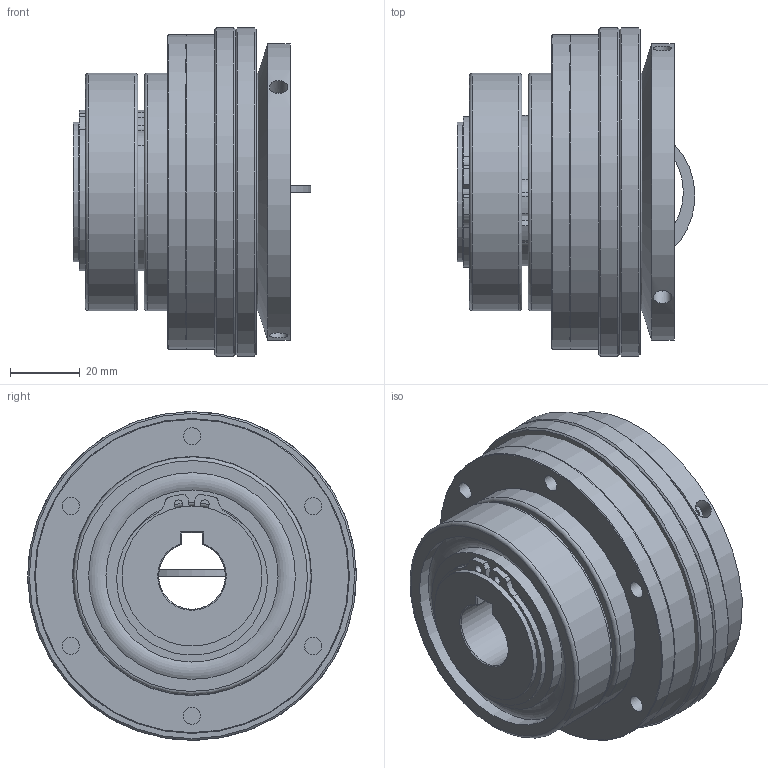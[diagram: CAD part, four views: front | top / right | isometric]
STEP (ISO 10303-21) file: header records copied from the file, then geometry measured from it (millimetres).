
FILE_DESCRIPTION( ( 'Unknown' ), '1' );
FILE_NAME( 'C:/Dokumente und Einstellungen/Sven/Desktop/hp kbk/KBK LL-P-150.stp', 'Unknown', ( 'Unknown' ), ( 'Unknown' ), 'XStep 1.0', 'Unknown', ' ' );
FILE_SCHEMA( ( 'automotive_design' ) );
Length unit declared in the file: millimetre
Products named in the file (10): Assem1; Assem2; ball_bearing_-_6008_0_01; ball_bearing_-_6008_0_02; ball_bearing_-_6008_0_03; Stellring 80; Druckring 80; a_40; KBK LL-P-80 Grundkörper; Flansch 80
Bounding box: 67.92 x 94 x 94 mm (x, y, z)
Volume: 493777.4 mm3; surface area: 196488.8 mm2
Topology: 23 solids, 23 shells, 300 faces, 622 edges, 396 vertices
Faces by surface type: cylinder 118, plane 110, cone 40, torus 32
Full cylindrical faces by diameter (mm): 2.5 x6, 3.242 x6, 4.917 x12, 5 x8, 5.2 x6, 37.5 x4, 40 x10, 49.2 x8, 59.1 x8, 61 x2, 62 x4, 68 x6, 70 x2, 85 x2, 87 x2, 90 x4, 94 x2
Entity records: 3432 total; most frequent: CARTESIAN_POINT 790, DIRECTION 555, ORIENTED_EDGE 336, AXIS2_PLACEMENT_3D 256, EDGE_LOOP 231, FACE_OUTER_BOUND 171, EDGE_CURVE 168, VERTEX_POINT 143
